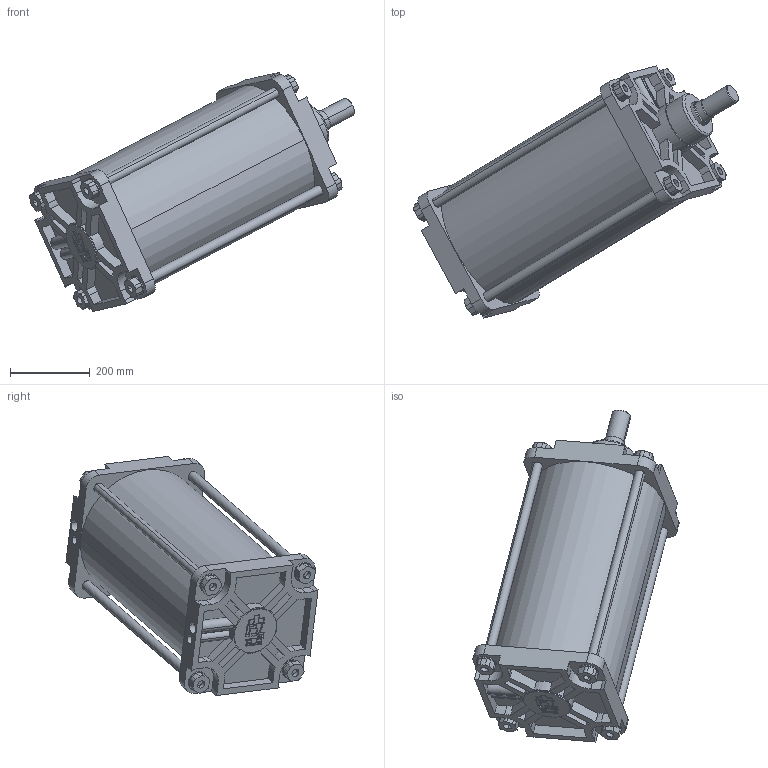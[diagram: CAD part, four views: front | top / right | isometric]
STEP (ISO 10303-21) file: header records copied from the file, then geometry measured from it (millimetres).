
FILE_DESCRIPTION(('CATIA V5 STEP Exchange'),'2;1');
FILE_NAME('D:\stp file for catalog\PNC\320\PNC 320-63-450.stp','2015-10-27T14:02:42+00:00',('none'),('none'),'Version 5-6 Release 2012','CATIA V5 STEP AP203','none');
FILE_SCHEMA(('CONFIG_CONTROL_DESIGN'));
Length unit declared in the file: millimetre
Products named in the file (1): PNC 320-63-450-00
Assembly tree (2 placements, depth 2):
  PNC 320-63-450-00
    #58
    #14831
Bounding box: 813.66 x 631.97 x 599.76 mm (x, y, z)
Volume: 20507347.9 mm3; surface area: 2368401.8 mm2
Topology: 2 solids, 4 shells, 522 faces, 1393 edges, 921 vertices
Faces by surface type: plane 305, cylinder 169, cone 42, torus 6
Entity records: 15447 total; most frequent: CARTESIAN_POINT 3485, ORIENTED_EDGE 2786, DIRECTION 1853, EDGE_CURVE 1393, VERTEX_POINT 921, VECTOR 878, LINE 878, AXIS2_PLACEMENT_3D 682
